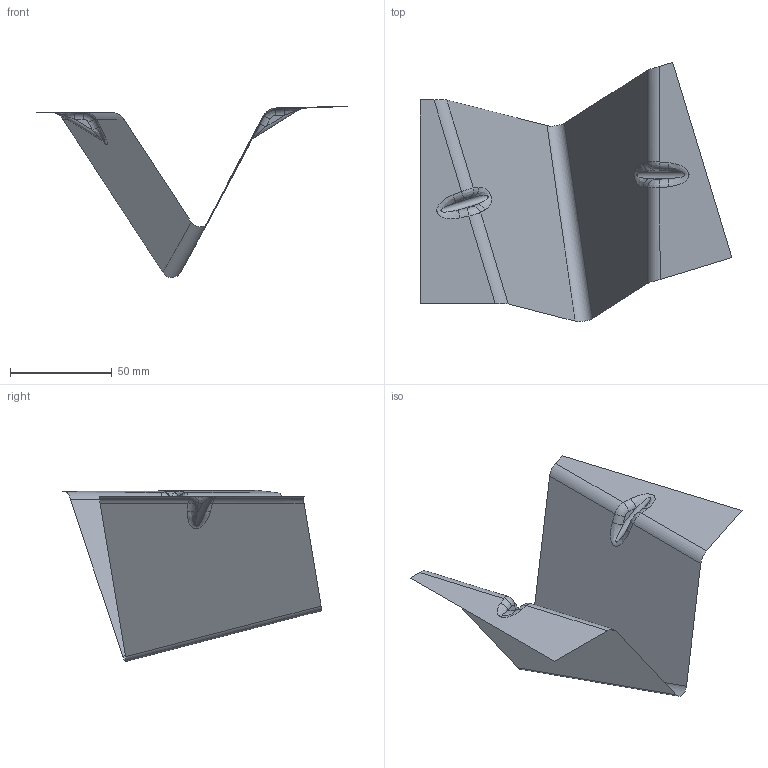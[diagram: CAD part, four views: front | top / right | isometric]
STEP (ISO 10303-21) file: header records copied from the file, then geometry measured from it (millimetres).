
FILE_DESCRIPTION(('CATIA V5 STEP Exchange'),'2;1');
FILE_NAME('C:\_Andres\UNIVERSIDAD\IQS\ASIGNATURAS\DAO\EXF\EXF-16172c\2inicio\Duch_Leira_Ej03_v10.stp','2017-03-05T19:32:08+00:00',('none'),('none'),'CATIA Version 5-6 Release 2014 SP1 HF18','CATIA V5 STEP AP203','none');
FILE_SCHEMA(('CONFIG_CONTROL_DESIGN'));
Length unit declared in the file: millimetre
Products named in the file (1): Duch_Leira_Ej03_v10
Bounding box: 152.83 x 126.91 x 83.88 mm (x, y, z)
Surface area: 22275.1 mm2 (no closed solid volume)
Topology: 0 solids, 1 shells, 31 faces, 78 edges, 48 vertices
Faces by surface type: cylinder 15, plane 8, bspline 8
Entity records: 2341 total; most frequent: CARTESIAN_POINT 1668, ORIENTED_EDGE 140, DIRECTION 90, EDGE_CURVE 78, VERTEX_POINT 48, VECTOR 40, LINE 40, ADVANCED_FACE 31
